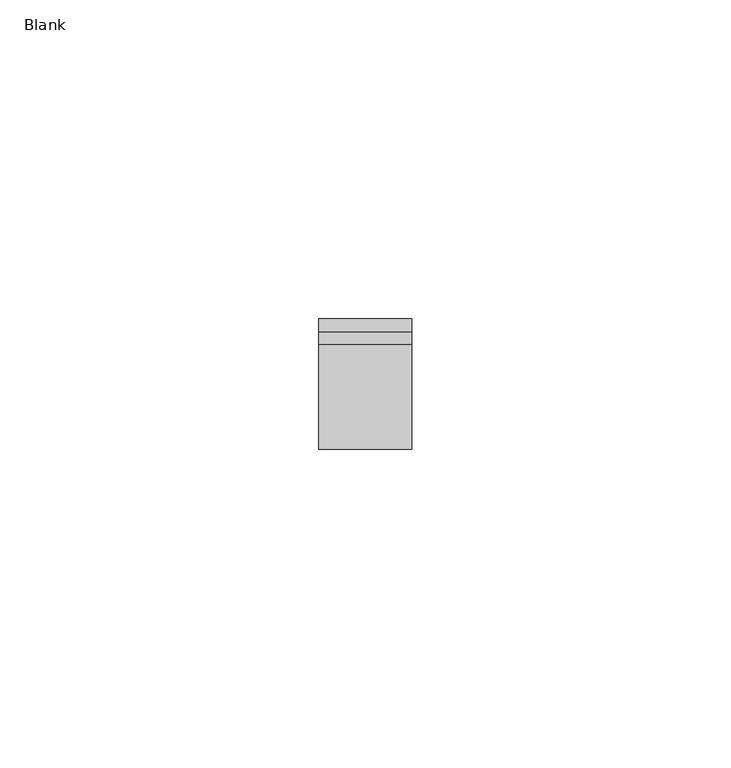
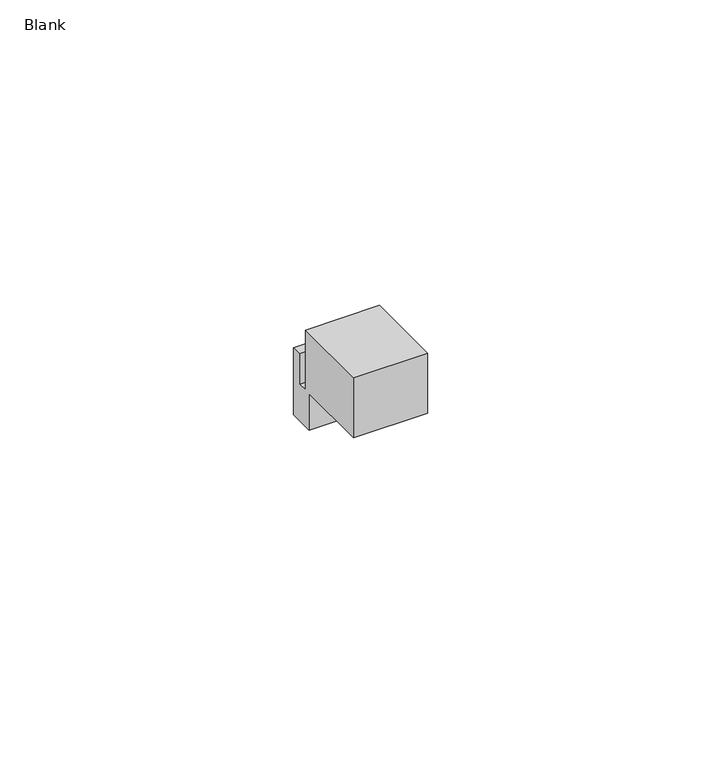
"""IFC4 building model written with IfcOpenShell, lengths in millimetres: electric appliance geometry, Data_Device-Network-Leviton-QuickPort-Connector-Copper : Blank."""

from ifc_helpers import new_model, si_unit, frame, origin, place, context, project, spatial, polyline, outline, extrude, source, transform, mapped, element, save


def blank_9f760caa(model_context):
    return source(origin(), model_context, "Body", "SweptSolid", [
        extrude(outline(polyline([(0.0, 0.0254), (16.383, 0.0254), (16.383, -12.446), (18.415, -12.446), (18.415, -6.096), (20.447, -6.096), (20.447, -20.066), (15.113, -20.066), (15.113, -12.446), (0.0, -12.446), (0.0, 0.0254)])), frame((-7.3025, 0.0, 0.0), z_axis=(1.0, 0.0, 0.0), x_axis=(0.0, 1.0, 0.0)), (0.0, 0.0, 1.0), 14.605),
    ])


if __name__ == "__main__":
    model = new_model("IFC4")
    model_context = context("Model", 3, world=origin())
    ifc_project = project(units=[si_unit("LENGTHUNIT", "METRE", prefix="MILLI")], contexts=[model_context])
    site = spatial("IfcSite", under=ifc_project)
    building = spatial("IfcBuilding", under=site)
    placement = place(None, origin())
    blank_shape = blank_9f760caa(model_context)
    element("IfcElectricAppliance", 1, ObjectType="Data_Device-Network-Leviton-QuickPort-Connector-Copper : Blank", at=placement, inside=building, context=model_context, shape_type="MappedRepresentation", body=[
        mapped(blank_shape, transform((0.0, 0.0, 0.0), x_axis=(1.0, 0.0, 0.0), y_axis=(0.0, 1.0, 0.0), z_axis=(0.0, 0.0, 1.0))),
    ])
    save(model, "model.ifc")
